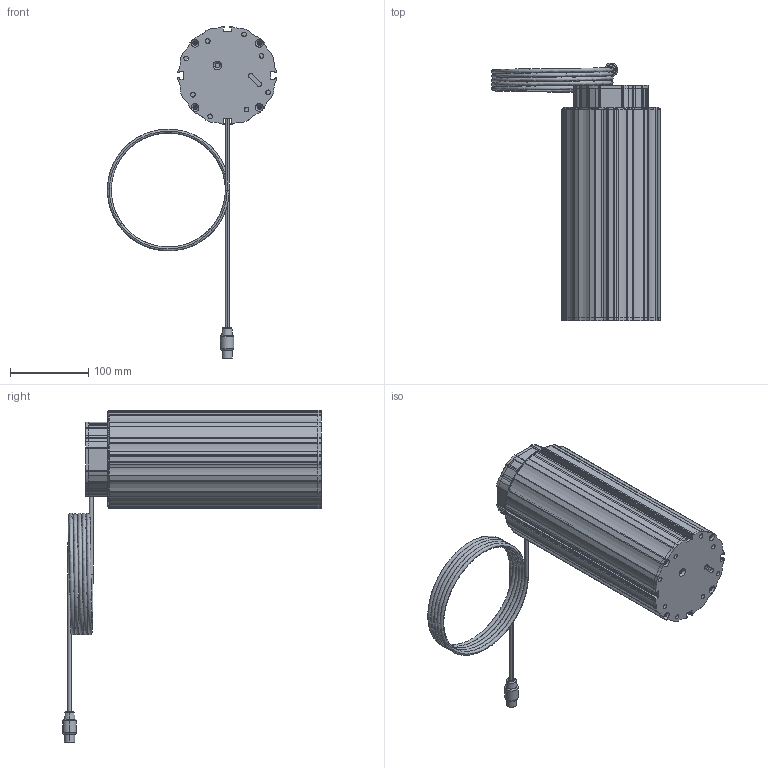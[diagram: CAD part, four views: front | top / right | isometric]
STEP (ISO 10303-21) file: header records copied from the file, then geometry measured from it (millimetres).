
FILE_DESCRIPTION (( 'STEP AP203' ), '1' );
FILE_NAME ('TR 126-3 mini EB300.STEP', '2009-09-17T06:19:16', ( 'PC' ), ( 'PC' ), 'SwSTEP 2.0', 'SolidWorks 2007', '' );
FILE_SCHEMA (( 'CONFIG_CONTROL_DESIGN' ));
Length unit declared in the file: millimetre
Products named in the file (10): Deckel Mitte_Standard; Deckel oben intern_ohne Konus; Brille A_STL-Teil; TR 126-3 mini EB300; Deckel Außen_Standard; TR126-3 Profil A_Standard; TR126-3 Profil B_Standard; TR126-3 Profil C_Standard; Brille B_STL-Teil; Kabel_f黵 Katalog
Assembly tree (9 placements, depth 2):
  TR 126-3 mini EB300
    Deckel Mitte_Standard
    Brille A_STL-Teil
    Kabel_f黵 Katalog
    TR126-3 Profil C_Standard
    TR126-3 Profil A_Standard
    Brille B_STL-Teil
    TR126-3 Profil B_Standard
    Deckel oben intern_ohne Konus
    Deckel Außen_Standard
Bounding box: 215.39 x 329 x 423.01 mm (x, y, z)
Volume: 1198486.1 mm3; surface area: 799960.3 mm2
Topology: 9 solids, 9 shells, 2571 faces, 7014 edges, 4438 vertices
Faces by surface type: cylinder 1310, plane 549, torus 288, bspline 288, sphere 79, cone 57
Entity records: 91009 total; most frequent: CARTESIAN_POINT 25012, DIRECTION 14099, ORIENTED_EDGE 13924, EDGE_CURVE 6962, AXIS2_PLACEMENT_3D 5699, VERTEX_POINT 4416, CIRCLE 3404, VECTOR 2701
